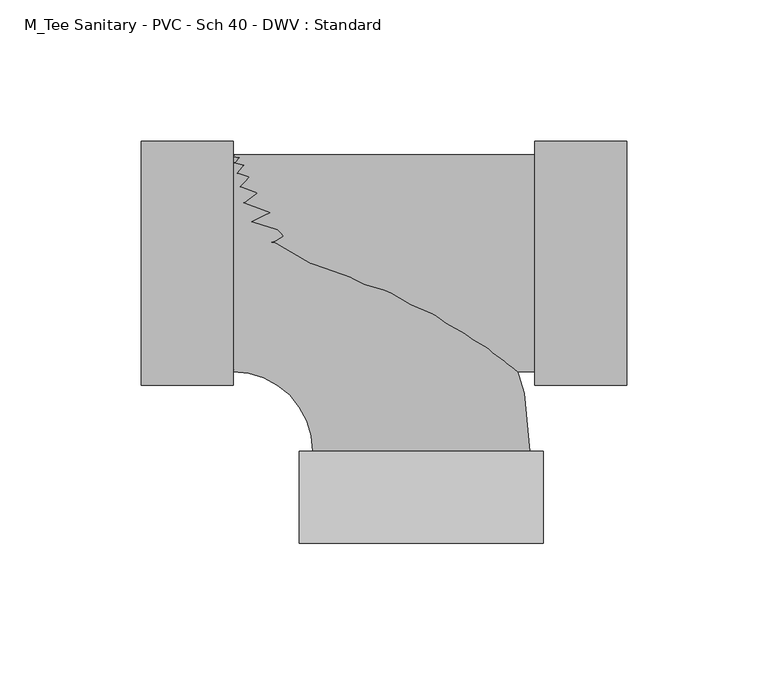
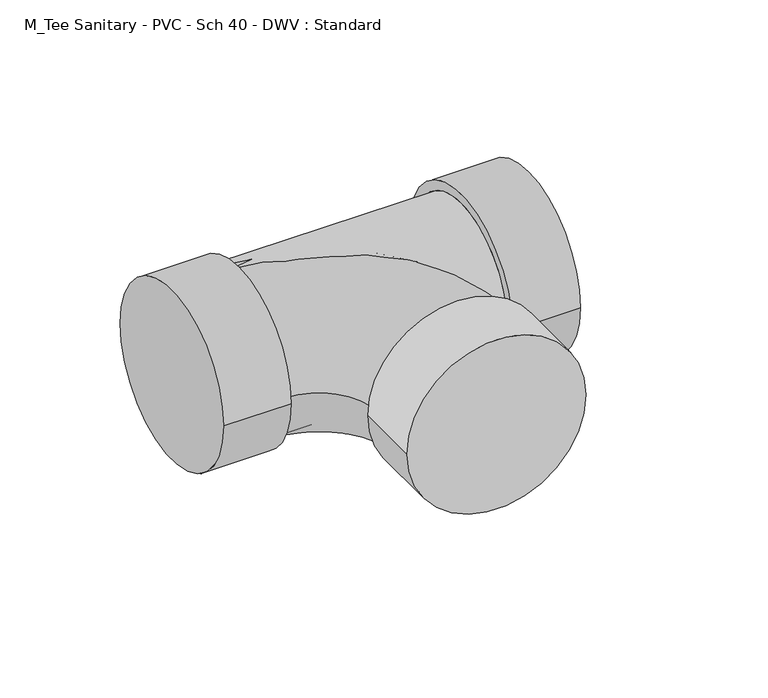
"""IFC4 building model written with IfcOpenShell, lengths in millimetres: pipe fitting geometry, M_Tee Sanitary - PVC - Sch 40 - DWV : Standard."""

from ifc_helpers import new_model, si_unit, point, frame, origin, place, context, project, spatial, circle_curve, ellipse_curve, trimmed, source, transform, mapped, element, save
from ifc_brep_helpers import plane_surface, cylinder_surface, revolved_surface, advanced_brep


def m_tee_sanitary_pvc_sch_40_dwv_standard_2f7d5431(model_context):
    return source(origin(), model_context, "Body", "AdvancedBrep", [
        advanced_brep(
        [(-66.5140625, -38.3640625, 0.0), (-66.5140625, 38.3640625, 0.0), (-38.3640625, -66.5140625, 0.0), (38.3640625, -66.5140625, 0.0), (43.0871094, -99.0140625, 0.0), (-43.0871094, -99.0140625, 0.0), (43.0871094, -66.5140625, 0.0), (-43.0871094, -66.5140625, 0.0)],
        [
            (0, 1, circle_curve(frame((-66.5140625, 0.0, 0.0), z_axis=(-1.0, 0.0, 0.0), x_axis=(0.0, 1.0, 0.0)), 38.3640625)),
            (1, 0, circle_curve(frame((-66.5140625, 0.0, 0.0), z_axis=(-1.0, 0.0, 0.0), x_axis=(0.0, 1.0, 0.0)), 38.3640625)),
            (0, 2, circle_curve(frame((-66.5140625, -66.5140625, 0.0), z_axis=(0.0, 0.0, -1.0), x_axis=(0.0, 1.0, 0.0)), 28.15)),
            (2, 3, circle_curve(frame((0.0, -66.5140625, 0.0), z_axis=(-1.0287938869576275e-12, 1.0, 0.0), x_axis=(1.0, 1.0287938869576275e-12, 0.0)), 38.3640625)),
            (3, 1, circle_curve(frame((-66.5140625, -66.5140625, 0.0), z_axis=(0.0, 0.0, 1.0), x_axis=(0.0, 1.0, 0.0)), 104.878125)),
            (3, 2, circle_curve(frame((0.0, -66.5140625, 0.0), z_axis=(-1.0287938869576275e-12, 1.0, 0.0), x_axis=(1.0, 1.0287938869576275e-12, 0.0)), 38.3640625)),
            (4, 5, circle_curve(frame((0.0, -99.0140625, 0.0), z_axis=(0.0, -1.0, 0.0), x_axis=(-1.0, 0.0, 0.0)), 43.0871094)),
            (5, 4, circle_curve(frame((0.0, -99.0140625, 0.0), z_axis=(0.0, -1.0, 0.0), x_axis=(-1.0, 0.0, 0.0)), 43.0871094)),
            (6, 7, circle_curve(frame((0.0, -66.5140625, 0.0), z_axis=(0.0, 1.0, 0.0), x_axis=(-1.0, 0.0, 0.0)), 43.0871094)),
            (7, 6, circle_curve(frame((0.0, -66.5140625, 0.0), z_axis=(0.0, 1.0, 0.0), x_axis=(-1.0, 0.0, 0.0)), 43.0871094)),
            (4, 6),
            (7, 5),
        ],
        [
            plane_surface(frame((-66.5140625, 0.0, 0.0), z_axis=(-1.0, 0.0, 0.0), x_axis=(0.0, 0.0, 1.0))),
            revolved_surface(trimmed(ellipse_curve(frame((-66.5140625, 0.0, 0.0), z_axis=(-1.0, 0.0, 0.0), x_axis=(0.0, 1.0, 0.0)), 38.3640625, 38.3640625), [point((-66.5140625, -38.3640625, 0.0))], [point((-66.5140625, 38.3640625, 0.0))], True, "CARTESIAN"), (-66.5140625, -66.5140625, 0.0), (0.0, 0.0, -1.0)),
            revolved_surface(trimmed(ellipse_curve(frame((-66.5140625, 0.0, 0.0), z_axis=(-1.0, 0.0, 0.0), x_axis=(0.0, 1.0, 0.0)), 38.3640625, 38.3640625), [point((-66.5140625, 38.3640625, 0.0))], [point((-66.5140625, -38.3640625, 0.0))], True, "CARTESIAN"), (-66.5140625, -66.5140625, 0.0), (0.0, 0.0, -1.0)),
            plane_surface(frame((0.0, -99.0140625, 0.0), z_axis=(0.0, -1.0, 0.0), x_axis=(0.0, 0.0, 1.0))),
            plane_surface(frame((0.0, -66.5140625, 0.0), z_axis=(0.0, 1.0, 0.0), x_axis=(0.0, 0.0, 1.0))),
            cylinder_surface(frame((0.0, -99.0140625, 0.0), z_axis=(0.0, -1.0, 0.0), x_axis=(-1.0, 0.0, 0.0)), 43.0871094),
        ],
        [
            (0, [[1, 2]]),
            (1, [[-1, 3, 4, 5]]),
            (2, [[-2, -5, 6, -3]]),
            (3, [[7, 8]]),
            (4, [[9, 10], [-4, -6]]),
            (5, [[-7, 11, -10, 12]]),
            (5, [[-8, -12, -9, -11]]),
        ],
    ),
        advanced_brep(
        [(-66.5140625, -38.3640625, 0.0), (40.115625, -38.3640625, 0.0), (40.115625, 38.3640625, 0.0), (-66.5140625, 38.3640625, 0.0), (40.115625, -43.0871094, 0.0), (40.115625, 43.0871094, 0.0), (72.615625, -43.0871094, 0.0), (72.615625, 43.0871094, 0.0), (-99.0140625, -43.0871094, 0.0), (-99.0140625, 43.0871094, 0.0), (-66.5140625, -43.0871094, 0.0), (-66.5140625, 43.0871094, 0.0)],
        [
            (0, 1),
            (1, 2, circle_curve(frame((40.115625, 0.0, 0.0), z_axis=(-1.0, 0.0, 0.0), x_axis=(0.0, 1.0, 0.0)), 38.3640625)),
            (2, 3),
            (3, 0, circle_curve(frame((-66.5140625, 0.0, 0.0), z_axis=(1.0, 0.0, 0.0), x_axis=(0.0, 1.0, 0.0)), 38.3640625)),
            (0, 3, circle_curve(frame((-66.5140625, 0.0, 0.0), z_axis=(1.0, 0.0, 0.0), x_axis=(0.0, 1.0, 0.0)), 38.3640625)),
            (2, 1, circle_curve(frame((40.115625, 0.0, 0.0), z_axis=(-1.0, 0.0, 0.0), x_axis=(0.0, 1.0, 0.0)), 38.3640625)),
            (4, 5, circle_curve(frame((40.115625, 0.0, 0.0), z_axis=(-1.0, 0.0, 0.0), x_axis=(0.0, 1.0, 0.0)), 43.0871094)),
            (5, 4, circle_curve(frame((40.115625, 0.0, 0.0), z_axis=(-1.0, 0.0, 0.0), x_axis=(0.0, 1.0, 0.0)), 43.0871094)),
            (6, 7, circle_curve(frame((72.615625, 0.0, 0.0), z_axis=(1.0, 0.0, 0.0), x_axis=(0.0, 1.0, 0.0)), 43.0871094)),
            (7, 6, circle_curve(frame((72.615625, 0.0, 0.0), z_axis=(1.0, 0.0, 0.0), x_axis=(0.0, 1.0, 0.0)), 43.0871094)),
            (4, 6),
            (7, 5),
            (8, 9, circle_curve(frame((-99.0140625, 0.0, 0.0), z_axis=(-1.0, 0.0, 0.0), x_axis=(0.0, 1.0, 0.0)), 43.0871094)),
            (9, 8, circle_curve(frame((-99.0140625, 0.0, 0.0), z_axis=(-1.0, 0.0, 0.0), x_axis=(0.0, 1.0, 0.0)), 43.0871094)),
            (10, 11, circle_curve(frame((-66.5140625, 0.0, 0.0), z_axis=(1.0, 0.0, 0.0), x_axis=(0.0, 1.0, 0.0)), 43.0871094)),
            (11, 10, circle_curve(frame((-66.5140625, 0.0, 0.0), z_axis=(1.0, 0.0, 0.0), x_axis=(0.0, 1.0, 0.0)), 43.0871094)),
            (8, 10),
            (11, 9),
        ],
        [
            cylinder_surface(frame((-66.5140625, 0.0, 0.0), z_axis=(-1.0, 0.0, 0.0), x_axis=(0.0, 1.0, 0.0)), 38.3640625),
            plane_surface(frame((40.115625, 0.0, 0.0), z_axis=(-1.0, 0.0, 0.0), x_axis=(0.0, 0.0, 1.0))),
            plane_surface(frame((72.615625, 0.0, 0.0), z_axis=(1.0, 0.0, 0.0), x_axis=(0.0, 0.0, 1.0))),
            cylinder_surface(frame((40.115625, 0.0, 0.0), z_axis=(-1.0, 0.0, 0.0), x_axis=(0.0, 1.0, 0.0)), 43.0871094),
            plane_surface(frame((-99.0140625, 0.0, 0.0), z_axis=(-1.0, 0.0, 0.0), x_axis=(0.0, 0.0, 1.0))),
            plane_surface(frame((-66.5140625, 0.0, 0.0), z_axis=(1.0, 0.0, 0.0), x_axis=(0.0, 0.0, 1.0))),
            cylinder_surface(frame((-99.0140625, 0.0, 0.0), z_axis=(-1.0, 0.0, 0.0), x_axis=(0.0, 1.0, 0.0)), 43.0871094),
        ],
        [
            (0, [[1, 2, 3, 4]]),
            (0, [[-1, 5, -3, 6]]),
            (1, [[7, 8], [-2, -6]]),
            (2, [[9, 10]]),
            (3, [[-7, 11, -10, 12]]),
            (3, [[-8, -12, -9, -11]]),
            (4, [[13, 14]]),
            (5, [[15, 16], [-4, -5]]),
            (6, [[-13, 17, -16, 18]]),
            (6, [[-14, -18, -15, -17]]),
        ],
    ),
    ])


if __name__ == "__main__":
    model = new_model("IFC4")
    model_context = context("Model", 3, world=origin())
    ifc_project = project(units=[si_unit("LENGTHUNIT", "METRE", prefix="MILLI")], contexts=[model_context])
    site = spatial("IfcSite", under=ifc_project)
    building = spatial("IfcBuilding", under=site)
    placement = place(None, origin())
    m_tee_sanitary_pvc_sch_40_dwv_standard_shape = m_tee_sanitary_pvc_sch_40_dwv_standard_2f7d5431(model_context)
    element("IfcPipeFitting", 1, ObjectType="M_Tee Sanitary - PVC - Sch 40 - DWV : Standard", at=placement, inside=building, context=model_context, shape_type="MappedRepresentation", body=[
        mapped(m_tee_sanitary_pvc_sch_40_dwv_standard_shape, transform((0.0, 0.0, 0.0), x_axis=(1.0, 0.0, 0.0), y_axis=(0.0, 1.0, 0.0), z_axis=(0.0, 0.0, 1.0))),
    ])
    save(model, "model.ifc")
